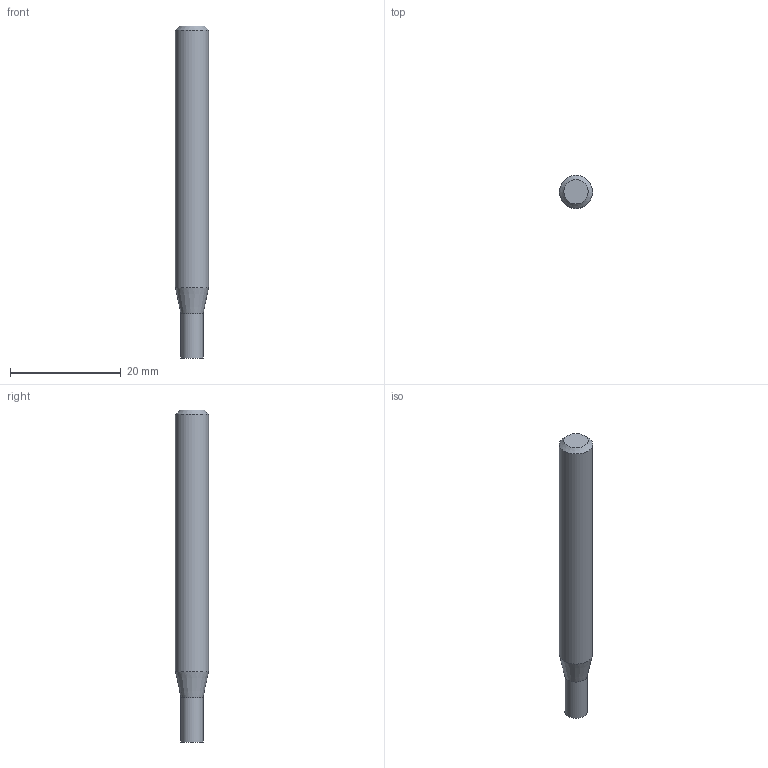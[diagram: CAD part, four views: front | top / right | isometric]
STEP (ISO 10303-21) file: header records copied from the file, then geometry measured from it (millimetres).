
FILE_DESCRIPTION((''),'2;1');
FILE_NAME('C:\Users\nsx150\AppData\Local\Temp\Mastercam 2021\SAD9WRQ6G5\TEMP.step','2022-07-08T15:15:26',(''),(''),'STEP Write','Mastercam 2021 ... CNC Software, Inc.','');
FILE_SCHEMA(('AUTOMOTIVE_DESIGN'));
Length unit declared in the file: millimetre
Products named in the file (1): None
Bounding box: 6 x 6 x 60 mm (x, y, z)
Volume: 1525.9 mm3; surface area: 1123.9 mm2
Topology: 2 solids, 2 shells, 8 faces, 10 edges, 6 vertices
Faces by surface type: plane 4, cylinder 2, cone 2
Full cylindrical faces by diameter (mm): 4 x1, 6 x1
Entity records: 190 total; most frequent: DIRECTION 32, CARTESIAN_POINT 22, AXIS2_PLACEMENT_3D 16, ORIENTED_EDGE 12, EDGE_LOOP 12, STYLED_ITEM 11, ADVANCED_FACE 8, VERTEX_POINT 6
